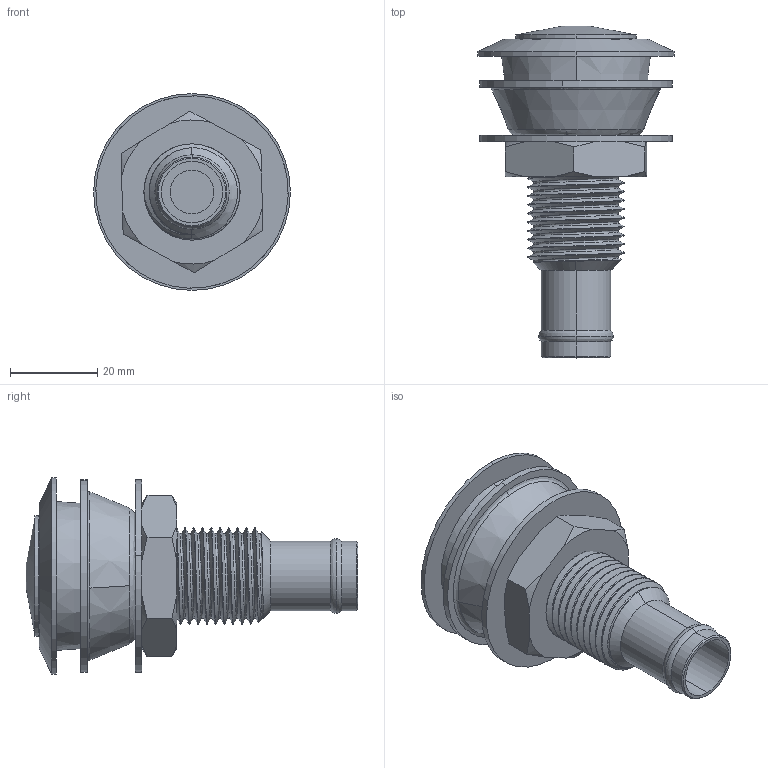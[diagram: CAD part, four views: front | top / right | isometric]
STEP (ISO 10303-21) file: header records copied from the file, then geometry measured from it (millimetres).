
FILE_DESCRIPTION (( 'STEP AP203' ), '1' );
FILE_NAME ('20.272.01.STEP', '2018-03-05T10:29:00', ( '' ), ( '' ), 'SwSTEP 2.0', 'SolidWorks 2014', '' );
FILE_SCHEMA (( 'CONFIG_CONTROL_DESIGN' ));
Length unit declared in the file: millimetre
Products named in the file (5): 20.272.01; 86005-2; 86005-1; 86005-3; 86005-4
Assembly tree (4 placements, depth 2):
  20.272.01
    86005-2
    86005-1
    86005-3
    86005-4
Bounding box: 45 x 75.9 x 45 mm (x, y, z)
Volume: 29297.2 mm3; surface area: 23840.1 mm2
Topology: 4 solids, 4 shells, 135 faces, 327 edges, 210 vertices
Faces by surface type: cylinder 55, plane 30, bspline 25, cone 25
Entity records: 7772 total; most frequent: CARTESIAN_POINT 4381, ORIENTED_EDGE 654, DIRECTION 555, EDGE_CURVE 327, AXIS2_PLACEMENT_3D 227, VERTEX_POINT 210, EDGE_LOOP 151, FACE_OUTER_BOUND 135
